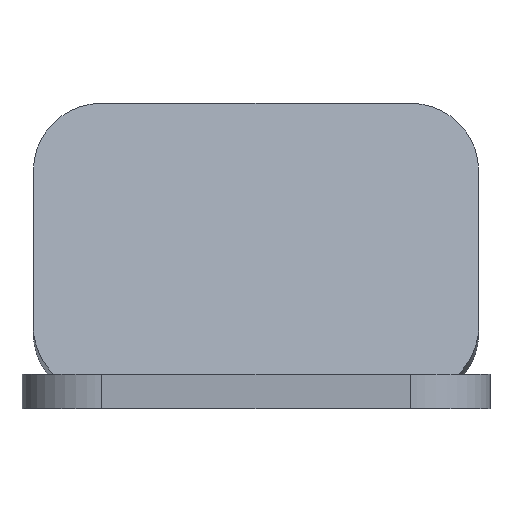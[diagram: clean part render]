
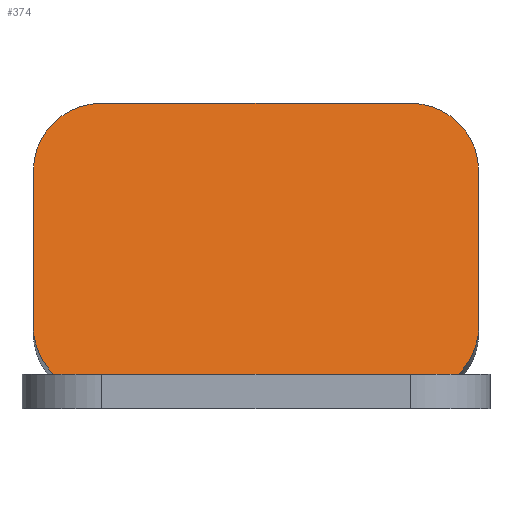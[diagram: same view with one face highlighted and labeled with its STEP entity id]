
A CAD part, front view. The second image highlights one B-rep face of the part: STEP entity #374.
In plain terms, the highlighted planar face has unit normal (0, -0.978, 0.208).
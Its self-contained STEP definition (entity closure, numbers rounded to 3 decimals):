
#12=DIRECTION('',(1.0,0.0,0.0));
#27=CARTESIAN_POINT('',(-184.0,10.669,153.509));
#31=VERTEX_POINT('',#27);
#34=CARTESIAN_POINT('',(-196.0,10.669,153.509));
#35=CARTESIAN_POINT('',(-196.0,8.174,141.771));
#36=(BOUNDED_CURVE()B_SPLINE_CURVE(2,(#35,#34,#27),.UNSPECIFIED.,.U.,.U.)B_SPLINE_CURVE_WITH_KNOTS((3,3),(0.0,1.0),.UNSPECIFIED.)CURVE()GEOMETRIC_REPRESENTATION_ITEM()RATIONAL_B_SPLINE_CURVE((1.0,0.707,1.0))REPRESENTATION_ITEM(''));
#37=VERTEX_POINT('',#35);
#38=EDGE_CURVE('',#37,#31,#36,.T.);
#58=CARTESIAN_POINT('',(-130.0,10.669,153.509));
#62=VERTEX_POINT('',#58);
#65=VECTOR('',#12,54.0);
#66=LINE('',#27,#65);
#67=EDGE_CURVE('',#31,#62,#66,.T.);
#86=CARTESIAN_POINT('',(-118.0,8.174,141.771));
#88=VERTEX_POINT('',#86);
#91=CARTESIAN_POINT('',(-118.0,10.669,153.509));
#92=(BOUNDED_CURVE()B_SPLINE_CURVE(2,(#86,#91,#58),.UNSPECIFIED.,.U.,.U.)B_SPLINE_CURVE_WITH_KNOTS((3,3),(0.0,1.0),.UNSPECIFIED.)CURVE()GEOMETRIC_REPRESENTATION_ITEM()RATIONAL_B_SPLINE_CURVE((1.0,0.707,1.0))REPRESENTATION_ITEM(''));
#93=EDGE_CURVE('',#88,#62,#92,.T.);
#114=CARTESIAN_POINT('',(-118.0,2.353,114.383));
#116=VERTEX_POINT('',#114);
#119=DIRECTION('',(0.0,0.208,0.978));
#120=VECTOR('',#119,28.);
#121=LINE('',#114,#120);
#122=EDGE_CURVE('',#116,#88,#121,.T.);
#128=DIRECTION('',(-1.0,0.0,0.0));
#129=CARTESIAN_POINT('',(-196.0,-0.142,102.646));
#132=CARTESIAN_POINT('',(-196.0,2.353,114.383));
#133=LINE('',#132,#120);
#134=VERTEX_POINT('',#132);
#135=EDGE_CURVE('',#134,#37,#133,.T.);
#337=CARTESIAN_POINT('',(-121.601,0.571,106.0));
#338=CARTESIAN_POINT('',(-118.0,1.304,109.452));
#339=(BOUNDED_CURVE()B_SPLINE_CURVE(2,(#114,#338,#337),.UNSPECIFIED.,.U.,.U.)B_SPLINE_CURVE_WITH_KNOTS((3,3),(0.0,1.0),.UNSPECIFIED.)CURVE()GEOMETRIC_REPRESENTATION_ITEM()RATIONAL_B_SPLINE_CURVE((1.0,0.922,1.0))REPRESENTATION_ITEM(''));
#340=VERTEX_POINT('',#337);
#341=EDGE_CURVE('',#116,#340,#339,.T.);
#353=DIRECTION('',(0.0,-0.978,0.208));
#354=AXIS2_PLACEMENT_3D('',#129,#353,#12);
#355=PLANE('',#354);
#356=VECTOR('',#128,70.798);
#357=LINE('',#337,#356);
#358=CARTESIAN_POINT('',(-192.399,0.571,106.0));
#359=VERTEX_POINT('',#358);
#360=EDGE_CURVE('',#340,#359,#357,.T.);
#361=ORIENTED_EDGE('',*,*,#360,.F.);
#362=CARTESIAN_POINT('',(-196.0,1.304,109.452));
#363=(BOUNDED_CURVE()B_SPLINE_CURVE(2,(#132,#362,#358),.UNSPECIFIED.,.U.,.U.)B_SPLINE_CURVE_WITH_KNOTS((3,3),(0.0,1.0),.UNSPECIFIED.)CURVE()GEOMETRIC_REPRESENTATION_ITEM()RATIONAL_B_SPLINE_CURVE((1.0,0.922,1.0))REPRESENTATION_ITEM(''));
#364=EDGE_CURVE('',#134,#359,#363,.T.);
#365=ORIENTED_EDGE('',*,*,#364,.T.);
#366=ORIENTED_EDGE('',*,*,#135,.F.);
#367=ORIENTED_EDGE('',*,*,#38,.F.);
#368=ORIENTED_EDGE('',*,*,#67,.F.);
#369=ORIENTED_EDGE('',*,*,#93,.T.);
#370=ORIENTED_EDGE('',*,*,#122,.T.);
#371=ORIENTED_EDGE('',*,*,#341,.F.);
#372=EDGE_LOOP('',(#371,#370,#369,#368,#367,#366,#365,#361));
#373=FACE_BOUND('',#372,.T.);
#374=ADVANCED_FACE('',(#373),#355,.T.);
